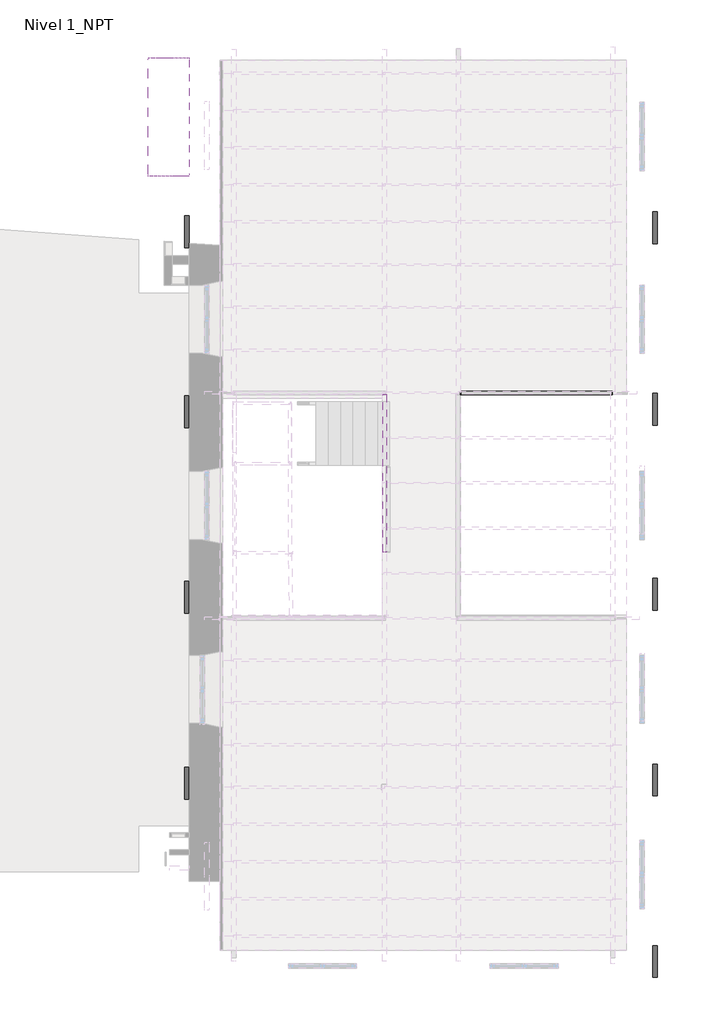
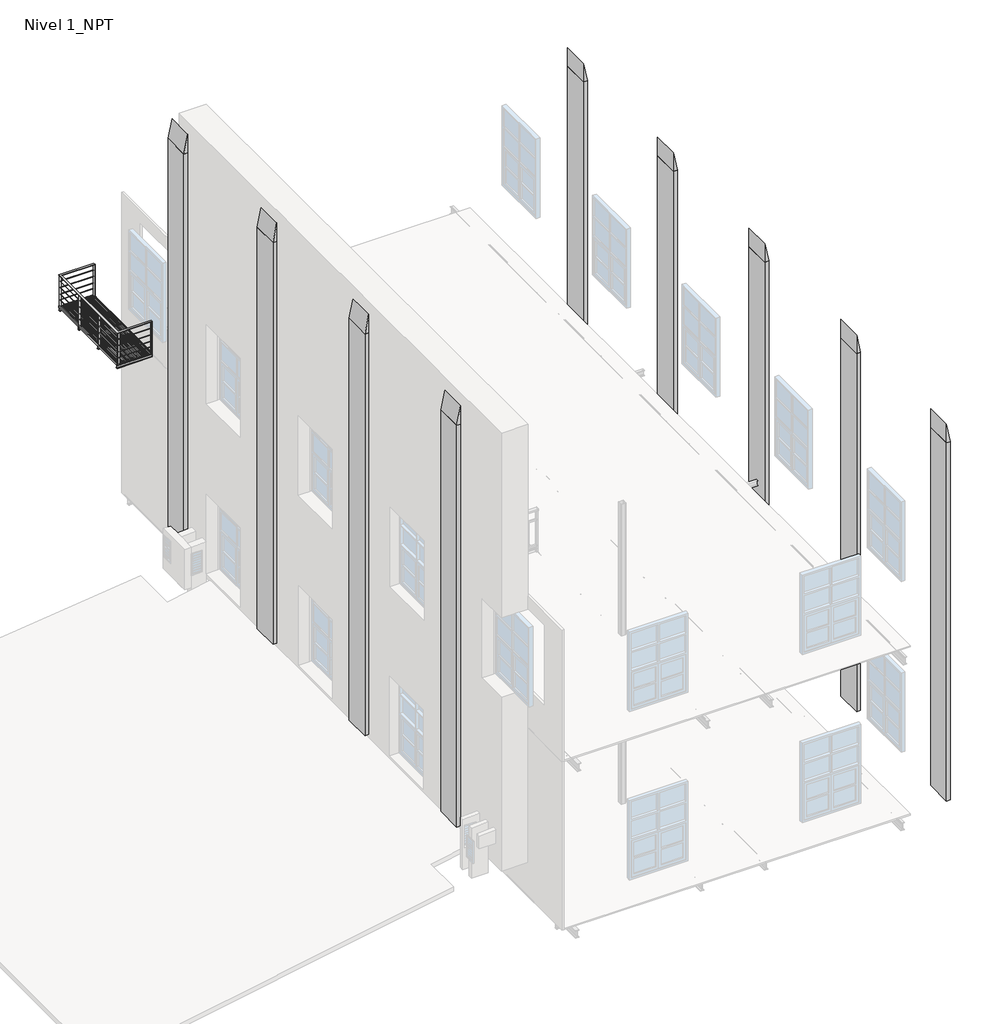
# One storey, part 6 of 6: 10 proxies, 2 railings.
"""IFC4 building model written with IfcOpenShell, lengths in millimetres."""

from ifc_helpers import new_model, si_unit, point, frame, frame_2d, origin, place, context, project, spatial, polyline, circle_curve, trimmed, segment, composite_curve, outline, extrude, faceted_brep, transform, mapped, element, save
from components import arq_plataforma_ace_arq_plataforma_ace_422f7437, arq_plataforma_ace_arq_plataforma_ace_1b43c91c, tipo_1_9bd7dcbe, tipo_1_766e241a

model = new_model("IFC4")

# Units and contexts
model_context = context("Model", 3, world=origin())
ifc_project = project(units=[si_unit("LENGTHUNIT", "METRE", prefix="MILLI")], contexts=[model_context])

# Site, building, storey
site = spatial("IfcSite", under=ifc_project)
building = spatial("IfcBuilding", under=site)
storey = spatial("IfcBuildingStorey", under=building, Name="Nivel 1_NPT", Elevation=4940.0)

# Proxies
placement = place(None, origin())
arq_plataforma_ace_arq_plataforma_ace_shape = arq_plataforma_ace_arq_plataforma_ace_422f7437(model_context)
arq_plataforma_ace_arq_plataforma_ace_2_shape = arq_plataforma_ace_arq_plataforma_ace_1b43c91c(model_context)
element("IfcBuildingElementProxy", 1, Name="ARQ-Plataforma-Ace : ARQ-Plataforma-Ace", ObjectType="ARQ-Plataforma-Ace : ARQ-Plataforma-Ace", at=placement, inside=storey, context=model_context, shape_type="MappedRepresentation", body=[
    mapped(arq_plataforma_ace_arq_plataforma_ace_shape, transform((4879.2897792, 12497.9182598, 10450.0), x_axis=(0.0, -1.0, 0.0), y_axis=(1.0, 0.0, 0.0), z_axis=(0.0, 0.0, 1.0))),
    mapped(arq_plataforma_ace_arq_plataforma_ace_2_shape, transform((4879.2897792, 12497.9182598, 10450.0), x_axis=(0.0, -1.0, 0.0), y_axis=(1.0, 0.0, 0.0), z_axis=(0.0, 0.0, 1.0))),
])
tipo_1_shape = tipo_1_9bd7dcbe(model_context)
element("IfcBuildingElementProxy", 2, Name="ARQ-MU-EXT-Lad : Tipo 1", ObjectType="ARQ-MU-EXT-Lad : Tipo 1", at=placement, inside=storey, context=model_context, shape_type="MappedRepresentation", body=[
    mapped(tipo_1_shape, transform((5694.2897792, 9852.9182598, 16850.0), x_axis=(0.0, 1.0, 0.0), y_axis=(-1.0, 0.0, 0.0), z_axis=(0.0, 0.0, 1.0))),
])
element("IfcBuildingElementProxy", 3, Name="ARQ-MU-EXT-Lad : Tipo 1", ObjectType="ARQ-MU-EXT-Lad : Tipo 1", at=placement, inside=storey, context=model_context, shape_type="MappedRepresentation", body=[
    mapped(tipo_1_shape, transform((5694.2897792, 5898.6072273, 16850.0), x_axis=(0.0, 1.0, 0.0), y_axis=(-1.0, 0.0, 0.0), z_axis=(0.0, 0.0, 1.0))),
])
element("IfcBuildingElementProxy", 4, Name="ARQ-MU-EXT-Lad : Tipo 1", ObjectType="ARQ-MU-EXT-Lad : Tipo 1", at=placement, inside=storey, context=model_context, shape_type="MappedRepresentation", body=[
    mapped(tipo_1_shape, transform((5694.2897792, 1818.6072273, 16850.0), x_axis=(0.0, 1.0, 0.0), y_axis=(-1.0, 0.0, 0.0), z_axis=(0.0, 0.0, 1.0))),
])
element("IfcBuildingElementProxy", 5, Name="ARQ-MU-EXT-Lad : Tipo 1", ObjectType="ARQ-MU-EXT-Lad : Tipo 1", at=placement, inside=storey, context=model_context, shape_type="MappedRepresentation", body=[
    mapped(tipo_1_shape, transform((5694.2897792, -2261.3927727, 16850.0), x_axis=(0.0, 1.0, 0.0), y_axis=(-1.0, 0.0, 0.0), z_axis=(0.0, 0.0, 1.0))),
])
tipo_1_2_shape = tipo_1_766e241a(model_context)
element("IfcBuildingElementProxy", 6, Name="ARQ-MU-EXT-Lad : Tipo 1", ObjectType="ARQ-MU-EXT-Lad : Tipo 1", at=placement, inside=storey, context=model_context, shape_type="MappedRepresentation", body=[
    mapped(tipo_1_2_shape, transform((15254.8126262, 10189.5638997, 15150.0), x_axis=(0.0, -1.0, 0.0), y_axis=(1.0, 0.0, 0.0), z_axis=(0.0, 0.0, 1.0))),
])
element("IfcBuildingElementProxy", 7, Name="ARQ-MU-EXT-Lad : Tipo 1", ObjectType="ARQ-MU-EXT-Lad : Tipo 1", at=placement, inside=storey, context=model_context, shape_type="MappedRepresentation", body=[
    mapped(tipo_1_2_shape, transform((15254.8126262, 6197.0638997, 15150.0), x_axis=(0.0, -1.0, 0.0), y_axis=(1.0, 0.0, 0.0), z_axis=(0.0, 0.0, 1.0))),
])
element("IfcBuildingElementProxy", 8, Name="ARQ-MU-EXT-Lad : Tipo 1", ObjectType="ARQ-MU-EXT-Lad : Tipo 1", at=placement, inside=storey, context=model_context, shape_type="MappedRepresentation", body=[
    mapped(tipo_1_2_shape, transform((15254.8126262, -5931.3671234, 15150.0), x_axis=(0.0, -1.0, 0.0), y_axis=(1.0, 0.0, 0.0), z_axis=(0.0, 0.0, 1.0))),
])
element("IfcBuildingElementProxy", 9, Name="ARQ-MU-EXT-Lad : Tipo 1", ObjectType="ARQ-MU-EXT-Lad : Tipo 1", at=placement, inside=storey, context=model_context, shape_type="MappedRepresentation", body=[
    mapped(tipo_1_2_shape, transform((15254.8126262, 2137.0638997, 15150.0), x_axis=(0.0, -1.0, 0.0), y_axis=(1.0, 0.0, 0.0), z_axis=(0.0, 0.0, 1.0))),
])
element("IfcBuildingElementProxy", 10, Name="ARQ-MU-EXT-Lad : Tipo 1", ObjectType="ARQ-MU-EXT-Lad : Tipo 1", at=placement, inside=storey, context=model_context, shape_type="MappedRepresentation", body=[
    mapped(tipo_1_2_shape, transform((15254.8126262, -1942.9361003, 15150.0), x_axis=(0.0, -1.0, 0.0), y_axis=(1.0, 0.0, 0.0), z_axis=(0.0, 0.0, 1.0))),
])

# Railings
element("IfcRailing", 11, ObjectType="ARQ-BA-IN-118-Hi-Ba3", at=placement, inside=storey, context=model_context, shape_type="SolidModel", body=[
    faceted_brep([(11334.8126262, 6475.6072273, 6070.0), (11334.8126262, 6475.6072273, 6120.0), (14639.9777112, 6475.6072273, 6120.0), (14639.9777112, 6475.6072273, 6070.0), (11334.8126262, 6395.6072273, 6070.0), (14639.9777112, 6395.6072273, 6070.0), (11334.8126262, 6395.6072273, 6120.0), (14639.9777112, 6395.6072273, 6120.0), (14659.9777112, 6475.6072273, 6120.0), (14659.9777112, 6395.6072273, 6120.0), (14659.9777112, 6395.6072273, 6070.0), (14659.9777112, 6475.6072273, 6070.0), (11314.8126262, 6475.6072273, 6120.0), (11314.8126262, 6475.6072273, 6070.0), (11314.8126262, 6395.6072273, 6070.0), (11314.8126262, 6395.6072273, 6120.0)], [[[0, 1, 2, 3]], [[4, 0, 3, 5]], [[6, 4, 5, 7]], [[1, 6, 7, 2]], [[8, 9, 10, 11]], [[3, 2, 8, 11]], [[5, 3, 11, 10]], [[7, 5, 10, 9]], [[2, 7, 9, 8]], [[12, 13, 14, 15]], [[13, 12, 1, 0]], [[14, 13, 0, 4]], [[15, 14, 4, 6]], [[12, 15, 6, 1]]]),
    extrude(outline(polyline([(11334.8126262, 6415.6072273), (11334.8126262, 6455.6072273), (14639.9777112, 6455.6072273), (14639.9777112, 6415.6072273), (11334.8126262, 6415.6072273)])), frame((0.0, 0.0, 5800.0), z_axis=(0.0, 0.0, 1.0), x_axis=(1.0, 0.0, 0.0)), (0.0, 0.0, 1.0), 40.0),
    extrude(outline(polyline([(11334.8126262, 6415.6072273), (11334.8126262, 6455.6072273), (14639.9777112, 6455.6072273), (14639.9777112, 6415.6072273), (11334.8126262, 6415.6072273)])), frame((0.0, 0.0, 5100.0), z_axis=(0.0, 0.0, 1.0), x_axis=(1.0, 0.0, 0.0)), (0.0, 0.0, 1.0), 40.0),
    extrude(outline(polyline([(11334.8126262, 6415.6072273), (11334.8126262, 6455.6072273), (14639.9777112, 6455.6072273), (14639.9777112, 6415.6072273), (11334.8126262, 6415.6072273)])), frame((0.0, 0.0, 5034.0), z_axis=(0.0, 0.0, 1.0), x_axis=(1.0, 0.0, 0.0)), (0.0, 0.0, 1.0), 6.0),
    extrude(outline(composite_curve([segment(trimmed(circle_curve(frame_2d((14433.4048934, 6435.6072273)), 10.0), [point((14433.4048934, 6425.6072273))], [point((14433.4048934, 6445.6072273))], False, "CARTESIAN"), True, "CONTINUOUS"), segment(trimmed(circle_curve(frame_2d((14433.4048934, 6435.6072273)), 10.0), [point((14433.4048934, 6445.6072273))], [point((14433.4048934, 6425.6072273))], False, "CARTESIAN"), True, "CONTINUOUS")], self_intersect=False)), frame((0.0, 0.0, 5140.0), z_axis=(0.0, 0.0, 1.0), x_axis=(1.0, 0.0, 0.0)), (0.0, 0.0, 1.0), 660.0),
    extrude(outline(composite_curve([segment(trimmed(circle_curve(frame_2d((14226.8320755, 6435.6072273)), 10.0), [point((14226.8320755, 6425.6072273))], [point((14226.8320755, 6445.6072273))], False, "CARTESIAN"), True, "CONTINUOUS"), segment(trimmed(circle_curve(frame_2d((14226.8320755, 6435.6072273)), 10.0), [point((14226.8320755, 6445.6072273))], [point((14226.8320755, 6425.6072273))], False, "CARTESIAN"), True, "CONTINUOUS")], self_intersect=False)), frame((0.0, 0.0, 5140.0), z_axis=(0.0, 0.0, 1.0), x_axis=(1.0, 0.0, 0.0)), (0.0, 0.0, 1.0), 660.0),
    extrude(outline(composite_curve([segment(trimmed(circle_curve(frame_2d((14020.2592577, 6435.6072273)), 10.0), [point((14020.2592577, 6425.6072273))], [point((14020.2592577, 6445.6072273))], False, "CARTESIAN"), True, "CONTINUOUS"), segment(trimmed(circle_curve(frame_2d((14020.2592577, 6435.6072273)), 10.0), [point((14020.2592577, 6445.6072273))], [point((14020.2592577, 6425.6072273))], False, "CARTESIAN"), True, "CONTINUOUS")], self_intersect=False)), frame((0.0, 0.0, 5140.0), z_axis=(0.0, 0.0, 1.0), x_axis=(1.0, 0.0, 0.0)), (0.0, 0.0, 1.0), 660.0),
    extrude(outline(polyline([(13793.6864399, 6455.6072273), (13833.6864399, 6455.6072273), (13833.6864399, 6415.6072273), (13793.6864399, 6415.6072273), (13793.6864399, 6455.6072273)])), frame((0.0, 0.0, 4940.0), z_axis=(0.0, 0.0, 1.0), x_axis=(1.0, 0.0, 0.0)), (0.0, 0.0, 1.0), 1130.0),
    extrude(outline(composite_curve([segment(trimmed(circle_curve(frame_2d((13607.1136221, 6435.6072273)), 10.0), [point((13607.1136221, 6425.6072273))], [point((13607.1136221, 6445.6072273))], False, "CARTESIAN"), True, "CONTINUOUS"), segment(trimmed(circle_curve(frame_2d((13607.1136221, 6435.6072273)), 10.0), [point((13607.1136221, 6445.6072273))], [point((13607.1136221, 6425.6072273))], False, "CARTESIAN"), True, "CONTINUOUS")], self_intersect=False)), frame((0.0, 0.0, 5140.0), z_axis=(0.0, 0.0, 1.0), x_axis=(1.0, 0.0, 0.0)), (0.0, 0.0, 1.0), 660.0),
    extrude(outline(composite_curve([segment(trimmed(circle_curve(frame_2d((13400.5408043, 6435.6072273)), 10.0), [point((13400.5408043, 6425.6072273))], [point((13400.5408043, 6445.6072273))], False, "CARTESIAN"), True, "CONTINUOUS"), segment(trimmed(circle_curve(frame_2d((13400.5408043, 6435.6072273)), 10.0), [point((13400.5408043, 6445.6072273))], [point((13400.5408043, 6425.6072273))], False, "CARTESIAN"), True, "CONTINUOUS")], self_intersect=False)), frame((0.0, 0.0, 5140.0), z_axis=(0.0, 0.0, 1.0), x_axis=(1.0, 0.0, 0.0)), (0.0, 0.0, 1.0), 660.0),
    extrude(outline(composite_curve([segment(trimmed(circle_curve(frame_2d((13193.9679865, 6435.6072273)), 10.0), [point((13193.9679865, 6425.6072273))], [point((13193.9679865, 6445.6072273))], False, "CARTESIAN"), True, "CONTINUOUS"), segment(trimmed(circle_curve(frame_2d((13193.9679865, 6435.6072273)), 10.0), [point((13193.9679865, 6445.6072273))], [point((13193.9679865, 6425.6072273))], False, "CARTESIAN"), True, "CONTINUOUS")], self_intersect=False)), frame((0.0, 0.0, 5140.0), z_axis=(0.0, 0.0, 1.0), x_axis=(1.0, 0.0, 0.0)), (0.0, 0.0, 1.0), 660.0),
    extrude(outline(polyline([(12967.3951687, 6455.6072273), (13007.3951687, 6455.6072273), (13007.3951687, 6415.6072273), (12967.3951687, 6415.6072273), (12967.3951687, 6455.6072273)])), frame((0.0, 0.0, 4940.0), z_axis=(0.0, 0.0, 1.0), x_axis=(1.0, 0.0, 0.0)), (0.0, 0.0, 1.0), 1130.0),
    extrude(outline(composite_curve([segment(trimmed(circle_curve(frame_2d((12780.8223509, 6435.6072273)), 10.0), [point((12780.8223509, 6425.6072273))], [point((12780.8223509, 6445.6072273))], False, "CARTESIAN"), True, "CONTINUOUS"), segment(trimmed(circle_curve(frame_2d((12780.8223509, 6435.6072273)), 10.0), [point((12780.8223509, 6445.6072273))], [point((12780.8223509, 6425.6072273))], False, "CARTESIAN"), True, "CONTINUOUS")], self_intersect=False)), frame((0.0, 0.0, 5140.0), z_axis=(0.0, 0.0, 1.0), x_axis=(1.0, 0.0, 0.0)), (0.0, 0.0, 1.0), 660.0),
    extrude(outline(composite_curve([segment(trimmed(circle_curve(frame_2d((12574.2495331, 6435.6072273)), 10.0), [point((12574.2495331, 6425.6072273))], [point((12574.2495331, 6445.6072273))], False, "CARTESIAN"), True, "CONTINUOUS"), segment(trimmed(circle_curve(frame_2d((12574.2495331, 6435.6072273)), 10.0), [point((12574.2495331, 6445.6072273))], [point((12574.2495331, 6425.6072273))], False, "CARTESIAN"), True, "CONTINUOUS")], self_intersect=False)), frame((0.0, 0.0, 5140.0), z_axis=(0.0, 0.0, 1.0), x_axis=(1.0, 0.0, 0.0)), (0.0, 0.0, 1.0), 660.0),
    extrude(outline(composite_curve([segment(trimmed(circle_curve(frame_2d((12367.6767152, 6435.6072273)), 10.0), [point((12367.6767152, 6425.6072273))], [point((12367.6767152, 6445.6072273))], False, "CARTESIAN"), True, "CONTINUOUS"), segment(trimmed(circle_curve(frame_2d((12367.6767152, 6435.6072273)), 10.0), [point((12367.6767152, 6445.6072273))], [point((12367.6767152, 6425.6072273))], False, "CARTESIAN"), True, "CONTINUOUS")], self_intersect=False)), frame((0.0, 0.0, 5140.0), z_axis=(0.0, 0.0, 1.0), x_axis=(1.0, 0.0, 0.0)), (0.0, 0.0, 1.0), 660.0),
    extrude(outline(polyline([(12141.1038974, 6455.6072273), (12181.1038974, 6455.6072273), (12181.1038974, 6415.6072273), (12141.1038974, 6415.6072273), (12141.1038974, 6455.6072273)])), frame((0.0, 0.0, 4940.0), z_axis=(0.0, 0.0, 1.0), x_axis=(1.0, 0.0, 0.0)), (0.0, 0.0, 1.0), 1130.0),
    extrude(outline(composite_curve([segment(trimmed(circle_curve(frame_2d((11954.5310796, 6435.6072273)), 10.0), [point((11954.5310796, 6425.6072273))], [point((11954.5310796, 6445.6072273))], False, "CARTESIAN"), True, "CONTINUOUS"), segment(trimmed(circle_curve(frame_2d((11954.5310796, 6435.6072273)), 10.0), [point((11954.5310796, 6445.6072273))], [point((11954.5310796, 6425.6072273))], False, "CARTESIAN"), True, "CONTINUOUS")], self_intersect=False)), frame((0.0, 0.0, 5140.0), z_axis=(0.0, 0.0, 1.0), x_axis=(1.0, 0.0, 0.0)), (0.0, 0.0, 1.0), 660.0),
    extrude(outline(composite_curve([segment(trimmed(circle_curve(frame_2d((11747.9582618, 6435.6072273)), 10.0), [point((11747.9582618, 6425.6072273))], [point((11747.9582618, 6445.6072273))], False, "CARTESIAN"), True, "CONTINUOUS"), segment(trimmed(circle_curve(frame_2d((11747.9582618, 6435.6072273)), 10.0), [point((11747.9582618, 6445.6072273))], [point((11747.9582618, 6425.6072273))], False, "CARTESIAN"), True, "CONTINUOUS")], self_intersect=False)), frame((0.0, 0.0, 5140.0), z_axis=(0.0, 0.0, 1.0), x_axis=(1.0, 0.0, 0.0)), (0.0, 0.0, 1.0), 660.0),
    extrude(outline(composite_curve([segment(trimmed(circle_curve(frame_2d((11541.385444, 6435.6072273)), 10.0), [point((11541.385444, 6425.6072273))], [point((11541.385444, 6445.6072273))], False, "CARTESIAN"), True, "CONTINUOUS"), segment(trimmed(circle_curve(frame_2d((11541.385444, 6435.6072273)), 10.0), [point((11541.385444, 6445.6072273))], [point((11541.385444, 6425.6072273))], False, "CARTESIAN"), True, "CONTINUOUS")], self_intersect=False)), frame((0.0, 0.0, 5140.0), z_axis=(0.0, 0.0, 1.0), x_axis=(1.0, 0.0, 0.0)), (0.0, 0.0, 1.0), 660.0),
    extrude(outline(polyline([(14619.9777112, 6455.6072273), (14659.9777112, 6455.6072273), (14659.9777112, 6415.6072273), (14619.9777112, 6415.6072273), (14619.9777112, 6455.6072273)])), frame((0.0, 0.0, 4940.0), z_axis=(0.0, 0.0, 1.0), x_axis=(1.0, 0.0, 0.0)), (0.0, 0.0, 1.0), 1130.0),
    extrude(outline(polyline([(11314.8126262, 6455.6072273), (11354.8126262, 6455.6072273), (11354.8126262, 6415.6072273), (11314.8126262, 6415.6072273), (11314.8126262, 6455.6072273)])), frame((0.0, 0.0, 4940.0), z_axis=(0.0, 0.0, 1.0), x_axis=(1.0, 0.0, 0.0)), (0.0, 0.0, 1.0), 1130.0),
])
element("IfcRailing", 12, ObjectType="ARQ-BA-IN-118-Hi-Ba2", at=placement, inside=storey, context=model_context, shape_type="SolidModel", body=[
    faceted_brep([(9694.8126262, 6379.6072273, 10630.0), (9694.8126262, 6379.6072273, 10680.0), (9694.8126262, 2951.7500845, 10680.0), (9694.8126262, 2951.7500845, 10630.0), (9614.8126262, 6379.6072273, 10630.0), (9614.8126262, 2951.7500845, 10630.0), (9614.8126262, 6379.6072273, 10680.0), (9614.8126262, 2951.7500845, 10680.0), (9694.8126262, 2931.7500845, 10680.0), (9614.8126262, 2931.7500845, 10680.0), (9614.8126262, 2931.7500845, 10630.0), (9694.8126262, 2931.7500845, 10630.0), (9694.8126262, 6399.6072273, 10680.0), (9694.8126262, 6399.6072273, 10630.0), (9614.8126262, 6399.6072273, 10630.0), (9614.8126262, 6399.6072273, 10680.0)], [[[0, 1, 2, 3]], [[4, 0, 3, 5]], [[6, 4, 5, 7]], [[1, 6, 7, 2]], [[8, 9, 10, 11]], [[3, 2, 8, 11]], [[5, 3, 11, 10]], [[7, 5, 10, 9]], [[2, 7, 9, 8]], [[12, 13, 14, 15]], [[13, 12, 1, 0]], [[14, 13, 0, 4]], [[15, 14, 4, 6]], [[12, 15, 6, 1]]]),
    extrude(outline(polyline([(9634.8126262, 6379.6072273), (9674.8126262, 6379.6072273), (9674.8126262, 2951.7500845), (9634.8126262, 2951.7500845), (9634.8126262, 6379.6072273)])), frame((0.0, 0.0, 10360.0), z_axis=(0.0, 0.0, 1.0), x_axis=(1.0, 0.0, 0.0)), (0.0, 0.0, 1.0), 40.0),
    extrude(outline(polyline([(9634.8126262, 6379.6072273), (9674.8126262, 6379.6072273), (9674.8126262, 2951.7500845), (9634.8126262, 2951.7500845), (9634.8126262, 6379.6072273)])), frame((0.0, 0.0, 9660.0), z_axis=(0.0, 0.0, 1.0), x_axis=(1.0, 0.0, 0.0)), (0.0, 0.0, 1.0), 40.0),
    extrude(outline(polyline([(9634.8126262, 6379.6072273), (9674.8126262, 6379.6072273), (9674.8126262, 2951.7500845), (9634.8126262, 2951.7500845), (9634.8126262, 6379.6072273)])), frame((0.0, 0.0, 9594.0), z_axis=(0.0, 0.0, 1.0), x_axis=(1.0, 0.0, 0.0)), (0.0, 0.0, 1.0), 6.0),
    extrude(outline(composite_curve([segment(trimmed(circle_curve(frame_2d((9654.8126262, 3165.9911559)), 10.0), [point((9664.8126262, 3165.9911559))], [point((9644.8126262, 3165.9911559))], False, "CARTESIAN"), True, "CONTINUOUS"), segment(trimmed(circle_curve(frame_2d((9654.8126262, 3165.9911559)), 10.0), [point((9644.8126262, 3165.9911559))], [point((9664.8126262, 3165.9911559))], False, "CARTESIAN"), True, "CONTINUOUS")], self_intersect=False)), frame((0.0, 0.0, 9700.0), z_axis=(0.0, 0.0, 1.0), x_axis=(1.0, 0.0, 0.0)), (0.0, 0.0, 1.0), 660.0),
    extrude(outline(composite_curve([segment(trimmed(circle_curve(frame_2d((9654.8126262, 3380.2322273)), 10.0), [point((9664.8126262, 3380.2322273))], [point((9644.8126262, 3380.2322273))], False, "CARTESIAN"), True, "CONTINUOUS"), segment(trimmed(circle_curve(frame_2d((9654.8126262, 3380.2322273)), 10.0), [point((9644.8126262, 3380.2322273))], [point((9664.8126262, 3380.2322273))], False, "CARTESIAN"), True, "CONTINUOUS")], self_intersect=False)), frame((0.0, 0.0, 9700.0), z_axis=(0.0, 0.0, 1.0), x_axis=(1.0, 0.0, 0.0)), (0.0, 0.0, 1.0), 660.0),
    extrude(outline(composite_curve([segment(trimmed(circle_curve(frame_2d((9654.8126262, 3594.4732988)), 10.0), [point((9664.8126262, 3594.4732988))], [point((9644.8126262, 3594.4732988))], False, "CARTESIAN"), True, "CONTINUOUS"), segment(trimmed(circle_curve(frame_2d((9654.8126262, 3594.4732988)), 10.0), [point((9644.8126262, 3594.4732988))], [point((9664.8126262, 3594.4732988))], False, "CARTESIAN"), True, "CONTINUOUS")], self_intersect=False)), frame((0.0, 0.0, 9700.0), z_axis=(0.0, 0.0, 1.0), x_axis=(1.0, 0.0, 0.0)), (0.0, 0.0, 1.0), 660.0),
    extrude(outline(polyline([(9634.8126262, 3828.7143702), (9674.8126262, 3828.7143702), (9674.8126262, 3788.7143702), (9634.8126262, 3788.7143702), (9634.8126262, 3828.7143702)])), frame((0.0, 0.0, 9500.0), z_axis=(0.0, 0.0, 1.0), x_axis=(1.0, 0.0, 0.0)), (0.0, 0.0, 1.0), 1130.0),
    extrude(outline(composite_curve([segment(trimmed(circle_curve(frame_2d((9654.8126262, 4022.9554416)), 10.0), [point((9664.8126262, 4022.9554416))], [point((9644.8126262, 4022.9554416))], False, "CARTESIAN"), True, "CONTINUOUS"), segment(trimmed(circle_curve(frame_2d((9654.8126262, 4022.9554416)), 10.0), [point((9644.8126262, 4022.9554416))], [point((9664.8126262, 4022.9554416))], False, "CARTESIAN"), True, "CONTINUOUS")], self_intersect=False)), frame((0.0, 0.0, 9700.0), z_axis=(0.0, 0.0, 1.0), x_axis=(1.0, 0.0, 0.0)), (0.0, 0.0, 1.0), 660.0),
    extrude(outline(composite_curve([segment(trimmed(circle_curve(frame_2d((9654.8126262, 4237.1965131)), 10.0), [point((9664.8126262, 4237.1965131))], [point((9644.8126262, 4237.1965131))], False, "CARTESIAN"), True, "CONTINUOUS"), segment(trimmed(circle_curve(frame_2d((9654.8126262, 4237.1965131)), 10.0), [point((9644.8126262, 4237.1965131))], [point((9664.8126262, 4237.1965131))], False, "CARTESIAN"), True, "CONTINUOUS")], self_intersect=False)), frame((0.0, 0.0, 9700.0), z_axis=(0.0, 0.0, 1.0), x_axis=(1.0, 0.0, 0.0)), (0.0, 0.0, 1.0), 660.0),
    extrude(outline(composite_curve([segment(trimmed(circle_curve(frame_2d((9654.8126262, 4451.4375845)), 10.0), [point((9664.8126262, 4451.4375845))], [point((9644.8126262, 4451.4375845))], False, "CARTESIAN"), True, "CONTINUOUS"), segment(trimmed(circle_curve(frame_2d((9654.8126262, 4451.4375845)), 10.0), [point((9644.8126262, 4451.4375845))], [point((9664.8126262, 4451.4375845))], False, "CARTESIAN"), True, "CONTINUOUS")], self_intersect=False)), frame((0.0, 0.0, 9700.0), z_axis=(0.0, 0.0, 1.0), x_axis=(1.0, 0.0, 0.0)), (0.0, 0.0, 1.0), 660.0),
    extrude(outline(polyline([(9634.8126262, 4685.6786559), (9674.8126262, 4685.6786559), (9674.8126262, 4645.6786559), (9634.8126262, 4645.6786559), (9634.8126262, 4685.6786559)])), frame((0.0, 0.0, 9500.0), z_axis=(0.0, 0.0, 1.0), x_axis=(1.0, 0.0, 0.0)), (0.0, 0.0, 1.0), 1130.0),
    extrude(outline(composite_curve([segment(trimmed(circle_curve(frame_2d((9654.8126262, 4879.9197273)), 10.0), [point((9664.8126262, 4879.9197273))], [point((9644.8126262, 4879.9197273))], False, "CARTESIAN"), True, "CONTINUOUS"), segment(trimmed(circle_curve(frame_2d((9654.8126262, 4879.9197273)), 10.0), [point((9644.8126262, 4879.9197273))], [point((9664.8126262, 4879.9197273))], False, "CARTESIAN"), True, "CONTINUOUS")], self_intersect=False)), frame((0.0, 0.0, 9700.0), z_axis=(0.0, 0.0, 1.0), x_axis=(1.0, 0.0, 0.0)), (0.0, 0.0, 1.0), 660.0),
    extrude(outline(composite_curve([segment(trimmed(circle_curve(frame_2d((9654.8126262, 5094.1607988)), 10.0), [point((9664.8126262, 5094.1607988))], [point((9644.8126262, 5094.1607988))], False, "CARTESIAN"), True, "CONTINUOUS"), segment(trimmed(circle_curve(frame_2d((9654.8126262, 5094.1607988)), 10.0), [point((9644.8126262, 5094.1607988))], [point((9664.8126262, 5094.1607988))], False, "CARTESIAN"), True, "CONTINUOUS")], self_intersect=False)), frame((0.0, 0.0, 9700.0), z_axis=(0.0, 0.0, 1.0), x_axis=(1.0, 0.0, 0.0)), (0.0, 0.0, 1.0), 660.0),
    extrude(outline(composite_curve([segment(trimmed(circle_curve(frame_2d((9654.8126262, 5308.4018702)), 10.0), [point((9664.8126262, 5308.4018702))], [point((9644.8126262, 5308.4018702))], False, "CARTESIAN"), True, "CONTINUOUS"), segment(trimmed(circle_curve(frame_2d((9654.8126262, 5308.4018702)), 10.0), [point((9644.8126262, 5308.4018702))], [point((9664.8126262, 5308.4018702))], False, "CARTESIAN"), True, "CONTINUOUS")], self_intersect=False)), frame((0.0, 0.0, 9700.0), z_axis=(0.0, 0.0, 1.0), x_axis=(1.0, 0.0, 0.0)), (0.0, 0.0, 1.0), 660.0),
    extrude(outline(polyline([(9634.8126262, 5542.6429416), (9674.8126262, 5542.6429416), (9674.8126262, 5502.6429416), (9634.8126262, 5502.6429416), (9634.8126262, 5542.6429416)])), frame((0.0, 0.0, 9500.0), z_axis=(0.0, 0.0, 1.0), x_axis=(1.0, 0.0, 0.0)), (0.0, 0.0, 1.0), 1130.0),
    extrude(outline(composite_curve([segment(trimmed(circle_curve(frame_2d((9654.8126262, 5736.8840131)), 10.0), [point((9664.8126262, 5736.8840131))], [point((9644.8126262, 5736.8840131))], False, "CARTESIAN"), True, "CONTINUOUS"), segment(trimmed(circle_curve(frame_2d((9654.8126262, 5736.8840131)), 10.0), [point((9644.8126262, 5736.8840131))], [point((9664.8126262, 5736.8840131))], False, "CARTESIAN"), True, "CONTINUOUS")], self_intersect=False)), frame((0.0, 0.0, 9700.0), z_axis=(0.0, 0.0, 1.0), x_axis=(1.0, 0.0, 0.0)), (0.0, 0.0, 1.0), 660.0),
    extrude(outline(composite_curve([segment(trimmed(circle_curve(frame_2d((9654.8126262, 5951.1250845)), 10.0), [point((9664.8126262, 5951.1250845))], [point((9644.8126262, 5951.1250845))], False, "CARTESIAN"), True, "CONTINUOUS"), segment(trimmed(circle_curve(frame_2d((9654.8126262, 5951.1250845)), 10.0), [point((9644.8126262, 5951.1250845))], [point((9664.8126262, 5951.1250845))], False, "CARTESIAN"), True, "CONTINUOUS")], self_intersect=False)), frame((0.0, 0.0, 9700.0), z_axis=(0.0, 0.0, 1.0), x_axis=(1.0, 0.0, 0.0)), (0.0, 0.0, 1.0), 660.0),
    extrude(outline(composite_curve([segment(trimmed(circle_curve(frame_2d((9654.8126262, 6165.3661559)), 10.0), [point((9664.8126262, 6165.3661559))], [point((9644.8126262, 6165.3661559))], False, "CARTESIAN"), True, "CONTINUOUS"), segment(trimmed(circle_curve(frame_2d((9654.8126262, 6165.3661559)), 10.0), [point((9644.8126262, 6165.3661559))], [point((9664.8126262, 6165.3661559))], False, "CARTESIAN"), True, "CONTINUOUS")], self_intersect=False)), frame((0.0, 0.0, 9700.0), z_axis=(0.0, 0.0, 1.0), x_axis=(1.0, 0.0, 0.0)), (0.0, 0.0, 1.0), 660.0),
    extrude(outline(polyline([(9634.8126262, 2971.7500845), (9674.8126262, 2971.7500845), (9674.8126262, 2931.7500845), (9634.8126262, 2931.7500845), (9634.8126262, 2971.7500845)])), frame((0.0, 0.0, 9500.0), z_axis=(0.0, 0.0, 1.0), x_axis=(1.0, 0.0, 0.0)), (0.0, 0.0, 1.0), 1130.0),
    extrude(outline(polyline([(9634.8126262, 6399.6072273), (9674.8126262, 6399.6072273), (9674.8126262, 6359.6072273), (9634.8126262, 6359.6072273), (9634.8126262, 6399.6072273)])), frame((0.0, 0.0, 9500.0), z_axis=(0.0, 0.0, 1.0), x_axis=(1.0, 0.0, 0.0)), (0.0, 0.0, 1.0), 1130.0),
])

save(model, "model.ifc")
